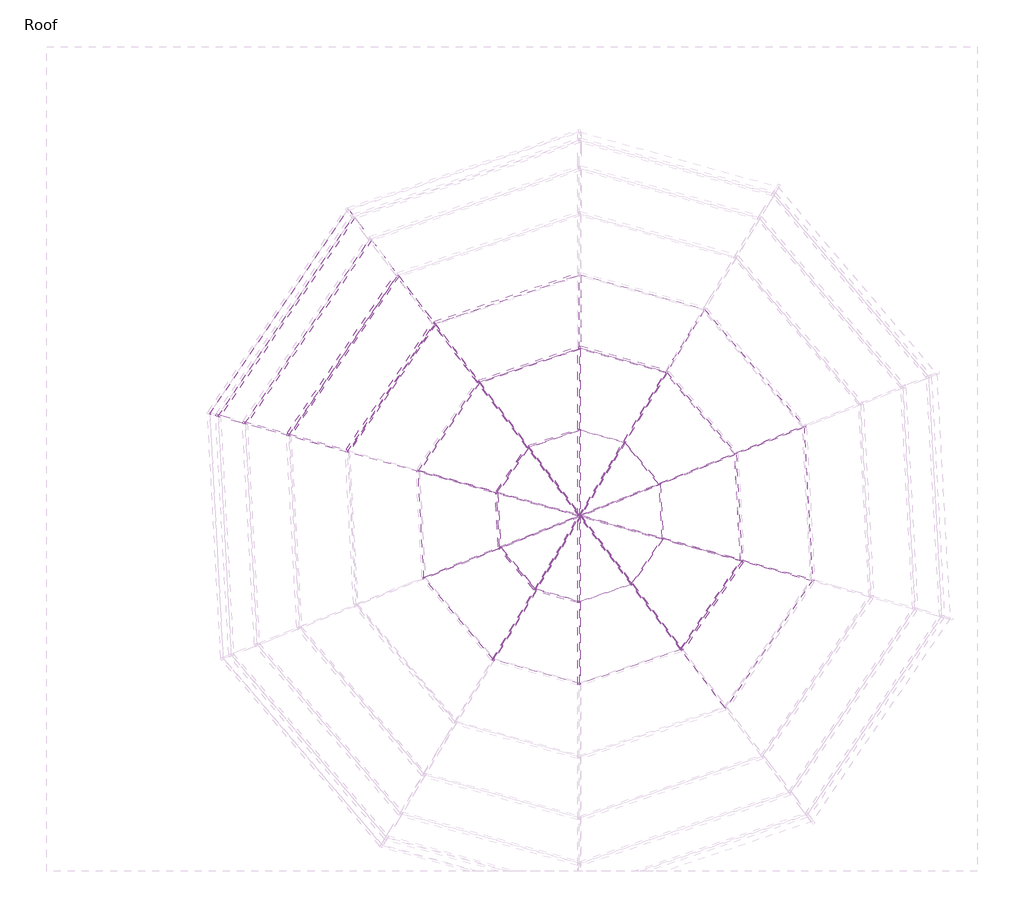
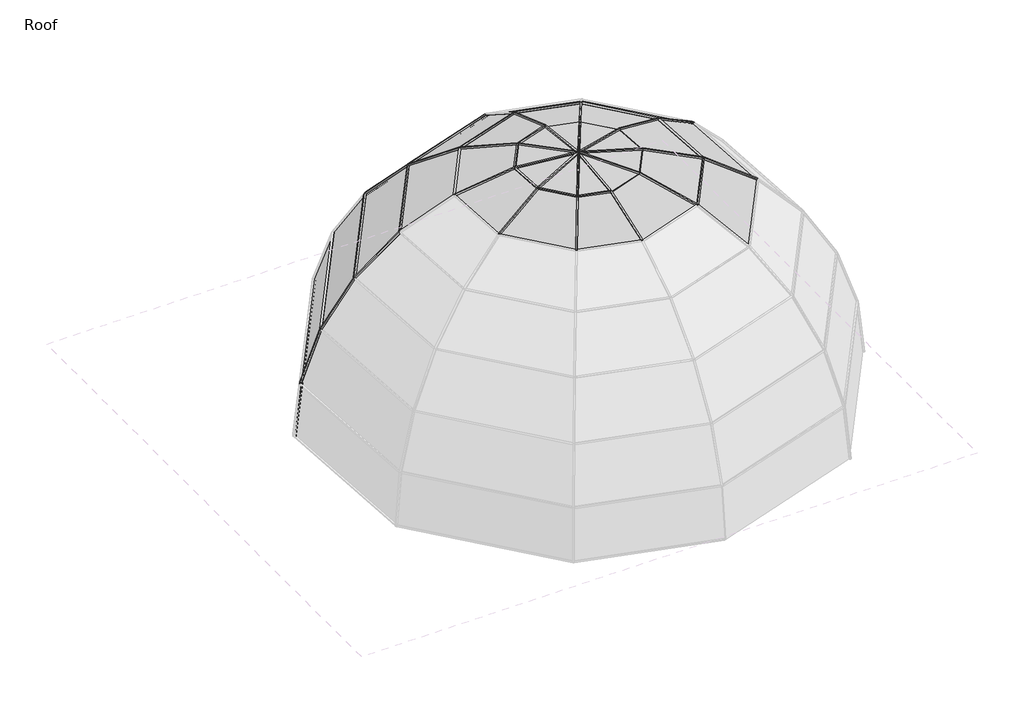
# One storey, part 2 of 3: 38 members, 30 plates.
"""IFC4 building model written with IfcOpenShell, lengths in millimetres."""

from ifc_helpers import new_model, si_unit, origin, place, context, project, spatial, transform, mapped, element, save
from components import member_3f701010, member_f9a14158, member_bc2e3a47, member_73dedc35, member_63cfc018, member_857f6deb, member_36e36e3b, member_26d44a89, member_b55583c4, member_f8dfbb61, member_9a94730e, member_5db58e8d, member_5e5b0f7a, member_c5f5a388, member_5673ea5a, member_a9a1d196, member_d894d30a, system_panel_glazed_1ea26782, system_panel_glazed_0465c066, system_panel_glazed_b605f71e, system_panel_glazed_6a8e4244, system_panel_glazed_dc2019c0, system_panel_glazed_ca898007, system_panel_glazed_39271ac9, system_panel_glazed_1f9012bf, system_panel_glazed_a35e3d46, system_panel_glazed_e93355c8, system_panel_glazed_0031539c, system_panel_glazed_23af2605, system_panel_glazed_4e7d729c, system_panel_glazed_ed1eaaca, system_panel_glazed_898b3a03, system_panel_glazed_c12102e3, system_panel_glazed_fc6d615b, system_panel_glazed_0e92e8da

model = new_model("IFC4")

# Units and contexts
model_context = context("Model", 3, world=origin())
ifc_project = project(units=[si_unit("LENGTHUNIT", "METRE", prefix="MILLI")], contexts=[model_context])

# Site, building, storey
site = spatial("IfcSite", under=ifc_project)
building = spatial("IfcBuilding", under=site)
storey = spatial("IfcBuildingStorey", under=building, Name="Roof", Elevation=15240.0)

# Members
placement = place(None, origin())
member_shape = member_3f701010(model_context)
element("IfcMember", 1, ObjectType="Rectangular Mullion : 1\" Square", at=placement, inside=storey, context=model_context, shape_type="MappedRepresentation", body=[
    mapped(member_shape, transform((-6819.2556928, -1466.4228438, 20297.5362419), x_axis=(-0.26737778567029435, -0.9635917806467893, 0.0), y_axis=(0.912776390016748, -0.25327751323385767, -0.3204524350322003), z_axis=(0.3087853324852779, -0.08568186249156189, 0.947264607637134))),
])
member_2_shape = member_f9a14158(model_context)
element("IfcMember", 2, ObjectType="Rectangular Mullion : 1\" Square", at=placement, inside=storey, context=model_context, shape_type="MappedRepresentation", body=[
    mapped(member_2_shape, transform((-4494.6509945, -248.1794723, 21964.9283585), x_axis=(-0.7960457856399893, -0.6052364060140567, 0.0), y_axis=(0.4307876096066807, -0.5665995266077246, -0.7024151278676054), z_axis=(0.4251272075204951, -0.5591546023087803, 0.7117675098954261))),
])
element("IfcMember", 3, ObjectType="Rectangular Mullion : 1\" Square", at=placement, inside=storey, context=model_context, shape_type="MappedRepresentation", body=[
    mapped(member_2_shape, transform((-3949.578556, -965.0937445, 22536.7606794), x_axis=(-0.7960457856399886, -0.6052364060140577, 0.0), y_axis=(0.32442232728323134, -0.42670107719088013, -0.8442016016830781), z_axis=(0.5109415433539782, -0.672023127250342, 0.5360257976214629))),
])
element("IfcMember", 4, ObjectType="Rectangular Mullion : 1\" Square", at=placement, inside=storey, context=model_context, shape_type="MappedRepresentation", body=[
    mapped(member_2_shape, transform((-6279.7685354, -1616.1199297, 21205.6147789), x_axis=(-0.2673777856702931, -0.9635917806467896, 0.0), y_axis=(0.8202259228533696, -0.22759657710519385, -0.5248135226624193), z_axis=(0.5057059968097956, -0.14032347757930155, 0.8512172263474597))),
])
element("IfcMember", 5, ObjectType="Rectangular Mullion : 1\" Square", at=placement, inside=storey, context=model_context, shape_type="MappedRepresentation", body=[
    mapped(member_2_shape, transform((-5557.7140831, -1816.4758527, 21964.9283585), x_axis=(-0.26737778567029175, -0.9635917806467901, 0.0), y_axis=(0.6858533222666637, -0.19031082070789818, -0.7024151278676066), z_axis=(0.6768414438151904, -0.18781020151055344, 0.7117675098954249))),
])
element("IfcMember", 6, ObjectType="Rectangular Mullion : 1\" Square", at=placement, inside=storey, context=model_context, shape_type="MappedRepresentation", body=[
    mapped(member_2_shape, transform((-708.5192281, -3162.0321439, 22536.7606794), x_axis=(0.2673777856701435, 0.9635917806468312, 0.0), y_axis=(-0.5165100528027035, 0.1433213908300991, -0.8442016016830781), z_axis=(-0.8134657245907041, 0.22572075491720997, 0.536025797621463))),
])
element("IfcMember", 7, ObjectType="Rectangular Mullion : 1\" Square", at=placement, inside=storey, context=model_context, shape_type="MappedRepresentation", body=[
    mapped(member_2_shape, transform((-780.210128, -1844.5312088, 22536.7606794), x_axis=(-0.37035586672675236, 0.9288899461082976, 0.0), y_axis=(-0.49790897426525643, -0.19852029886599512, -0.8442016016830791), z_axis=(-0.7841703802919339, -0.3126550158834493, 0.5360257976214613))),
])
member_3_shape = member_bc2e3a47(model_context)
element("IfcMember", 8, ObjectType="Rectangular Mullion : 1\" Square", at=placement, inside=storey, context=model_context, shape_type="MappedRepresentation", body=[
    mapped(member_3_shape, transform((-3340.7518393, -1765.8617373, 22891.9548387), x_axis=(-0.7960457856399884, -0.6052364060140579, 0.0), y_axis=(0.20151521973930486, -0.26504575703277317, -0.942943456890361), z_axis=(0.5707037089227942, -0.7506261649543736, 0.33295290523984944))),
])
element("IfcMember", 9, ObjectType="Rectangular Mullion : 1\" Square", at=placement, inside=storey, context=model_context, shape_type="MappedRepresentation", body=[
    mapped(member_3_shape, transform((-3245.4063873, -3518.0746733, 22891.9548387), x_axis=(0.8570182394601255, -0.5152860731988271, 0.0), y_axis=(0.17156599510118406, 0.2853467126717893, -0.9429434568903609), z_axis=(0.4858856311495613, 0.8081197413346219, 0.3329529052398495))),
])
element("IfcMember", 10, ObjectType="Rectangular Mullion : 1\" Square", at=placement, inside=storey, context=model_context, shape_type="MappedRepresentation", body=[
    mapped(member_3_shape, transform((-3683.8177528, -3002.2228418, 22891.9548387), x_axis=(0.3703558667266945, -0.9288899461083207, 0.0), y_axis=(0.309276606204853, 0.12331106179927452, -0.9429434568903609), z_axis=(0.8758906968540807, 0.3492246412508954, 0.33295290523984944))),
])
element("IfcMember", 11, ObjectType="Rectangular Mullion : 1\" Square", at=placement, inside=storey, context=model_context, shape_type="MappedRepresentation", body=[
    mapped(member_3_shape, transform((-3720.6009641, -2326.238646, 22891.9548387), x_axis=(-0.2673777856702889, -0.9635917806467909, 0.0), y_axis=(0.3208306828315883, -0.08902421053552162, -0.942943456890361), z_axis=(0.9086125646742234, -0.25212213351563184, 0.33295290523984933))),
])
member_4_shape = member_73dedc35(model_context)
element("IfcMember", 12, ObjectType="Rectangular Mullion : 1\" Square", at=placement, inside=storey, context=model_context, shape_type="MappedRepresentation", body=[
    mapped(member_4_shape, transform((-2699.2140381, -3669.6323181, 22891.9548387), x_axis=(0.9957593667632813, -0.030630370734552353, 0.08674712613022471), y_axis=(0.09199610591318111, 0.3315409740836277, -0.9389447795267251), z_axis=(0.0, 0.9429434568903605, 0.33295290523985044))),
])
member_5_shape = member_63cfc018(model_context)
element("IfcMember", 13, ObjectType="Rectangular Mullion : 1\" Square", at=placement, inside=storey, context=model_context, shape_type="MappedRepresentation", body=[
    mapped(member_5_shape, transform((-2699.2140381, -543.7424999, 22536.7606794), x_axis=(0.9937644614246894, 0.03712416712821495, 0.10513796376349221), y_axis=(0.11149975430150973, -0.33087676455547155, -0.9370636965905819), z_axis=(0.0, 0.9429434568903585, -0.33295290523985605))),
])
member_6_shape = member_857f6deb(model_context)
element("IfcMember", 14, ObjectType="Rectangular Mullion : 1\" Square", at=placement, inside=storey, context=model_context, shape_type="MappedRepresentation", body=[
    mapped(member_6_shape, transform((-2699.2140381, -1549.6745798, 22891.9548387), x_axis=(0.9992770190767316, 0.004302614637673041, 0.03777468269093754), y_axis=(0.038018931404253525, -0.11308850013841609, -0.9928572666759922), z_axis=(0.0, 0.9935756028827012, -0.11317032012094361))),
])
member_7_shape = member_36e36e3b(model_context)
element("IfcMember", 15, ObjectType="Rectangular Mullion : 1\" Square", at=placement, inside=storey, context=model_context, shape_type="MappedRepresentation", body=[
    mapped(member_7_shape, transform((-6272.6426915, -1605.6074443, 21205.6147789), x_axis=(-0.5281202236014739, 0.35798406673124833, -0.7700236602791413), y_axis=(0.637390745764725, -0.43205262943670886, -0.6380153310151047), z_axis=(-0.5610900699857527, -0.8277547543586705, 0.0))),
])
member_8_shape = member_26d44a89(model_context)
element("IfcMember", 16, ObjectType="Rectangular Mullion : 1\" Square", at=placement, inside=storey, context=model_context, shape_type="MappedRepresentation", body=[
    mapped(member_8_shape, transform((-5550.5882392, -1805.9633673, 21964.9283585), x_axis=(-0.6575841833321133, 0.44574066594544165, -0.6073699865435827), y_axis=(0.5027533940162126, -0.3407892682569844, -0.7944190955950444), z_axis=(-0.5610900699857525, -0.8277547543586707, 0.0))),
])
member_9_shape = member_b55583c4(model_context)
element("IfcMember", 17, ObjectType="Rectangular Mullion : 1\" Square", at=placement, inside=storey, context=model_context, shape_type="MappedRepresentation", body=[
    mapped(member_9_shape, transform((-4482.6159576, -244.1238728, 21964.9283585), x_axis=(-0.25368863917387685, 0.7528238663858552, -0.6073699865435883), y_axis=(0.19395664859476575, -0.5755685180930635, -0.7944190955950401), z_axis=(-0.9476406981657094, -0.31933854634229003, 0.0))),
])
member_10_shape = member_f8dfbb61(model_context)
element("IfcMember", 18, ObjectType="Rectangular Mullion : 1\" Square", at=placement, inside=storey, context=model_context, shape_type="MappedRepresentation", body=[
    mapped(member_10_shape, transform((-715.645072, -3172.5446293, 22536.7606794), x_axis=(0.7517846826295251, -0.5095940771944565, -0.4184897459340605), y_axis=(-0.34640687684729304, 0.23481044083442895, -0.9082215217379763), z_axis=(0.561090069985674, 0.8277547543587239, 0.0))),
])
member_11_shape = member_9a94730e(model_context)
element("IfcMember", 19, ObjectType="Rectangular Mullion : 1\" Square", at=placement, inside=storey, context=model_context, shape_type="MappedRepresentation", body=[
    mapped(member_11_shape, transform((-2699.2140381, -2612.1934489, 23012.3993172), x_axis=(0.9995096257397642, -0.003543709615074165, 0.03111189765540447), y_axis=(0.031313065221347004, 0.11311482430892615, -0.9930883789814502), z_axis=(0.0, 0.9935756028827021, 0.11317032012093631))),
])
member_12_shape = member_5db58e8d(model_context)
element("IfcMember", 20, ObjectType="Rectangular Mullion : 1\" Square", at=placement, inside=storey, context=model_context, shape_type="MappedRepresentation", body=[
    mapped(member_12_shape, transform((-2701.6615612, -2608.9743094, 23012.3993172), x_axis=(-0.26737778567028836, -0.963591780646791, 0.0), y_axis=(0.10904999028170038, -0.030259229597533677, -0.9935756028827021), z_axis=(0.9574012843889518, -0.26566004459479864, 0.11317032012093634))),
])
element("IfcMember", 21, ObjectType="Rectangular Mullion : 1\" Square", at=placement, inside=storey, context=model_context, shape_type="MappedRepresentation", body=[
    mapped(member_12_shape, transform((-2701.5734186, -2610.5941528, 23012.3993172), x_axis=(0.37035586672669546, -0.9288899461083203, 0.0), y_axis=(0.10512277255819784, 0.04191329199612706, -0.9935756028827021), z_axis=(0.9229223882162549, 0.367976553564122, 0.1131703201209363))),
])
element("IfcMember", 22, ObjectType="Rectangular Mullion : 1\" Square", at=placement, inside=storey, context=model_context, shape_type="MappedRepresentation", body=[
    mapped(member_12_shape, transform((-2700.5228647, -2611.8302753, 23012.3993172), x_axis=(0.8570182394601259, -0.5152860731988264, 0.0), y_axis=(0.05831508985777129, 0.09698902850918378, -0.9935756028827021), z_axis=(0.5119756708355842, 0.8515124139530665, 0.11317032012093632))),
])
element("IfcMember", 23, ObjectType="Rectangular Mullion : 1\" Square", at=placement, inside=storey, context=model_context, shape_type="MappedRepresentation", body=[
    mapped(member_12_shape, transform((-2700.7513386, -2607.6314926, 23012.3993172), x_axis=(-0.7960457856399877, -0.6052364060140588, 0.0), y_axis=(0.06849479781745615, -0.09008875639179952, -0.9935756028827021), z_axis=(0.6013481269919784, -0.7909316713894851, 0.1131703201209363))),
])
member_13_shape = member_5e5b0f7a(model_context)
element("IfcMember", 24, ObjectType="Rectangular Mullion : 1\" Square", at=placement, inside=storey, context=model_context, shape_type="MappedRepresentation", body=[
    mapped(member_13_shape, transform((-3328.7168025, -1761.8061377, 22891.9548387), x_axis=(-0.3119990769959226, 0.9258607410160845, -0.21316299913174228), y_axis=(0.06807116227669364, -0.2020019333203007, -0.9770166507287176), z_axis=(-0.9476406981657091, -0.31933854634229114, 0.0))),
])
member_14_shape = member_c5f5a388(model_context)
element("IfcMember", 25, ObjectType="Rectangular Mullion : 1\" Square", at=placement, inside=storey, context=model_context, shape_type="MappedRepresentation", body=[
    mapped(member_14_shape, transform((-2723.6892693, -3662.8409224, 22891.9548387), x_axis=(-0.26103129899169, -0.9407199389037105, -0.21658406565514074), y_axis=(0.05790976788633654, 0.2086986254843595, -0.9762639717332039), z_axis=(0.9635917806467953, -0.2673777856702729, 0.0))),
])
member_15_shape = member_5673ea5a(model_context)
element("IfcMember", 26, ObjectType="Rectangular Mullion : 1\" Square", at=placement, inside=storey, context=model_context, shape_type="MappedRepresentation", body=[
    mapped(member_15_shape, transform((-3937.5435192, -961.0381449, 22536.7606794), x_axis=(-0.29003014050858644, 0.8606676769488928, -0.4184897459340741), y_axis=(0.13363990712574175, -0.3965779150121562, -0.9082215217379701), z_axis=(-0.9476406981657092, -0.3193385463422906, 0.0))),
])
member_16_shape = member_a9a1d196(model_context)
element("IfcMember", 27, ObjectType="Rectangular Mullion : 1\" Square", at=placement, inside=storey, context=model_context, shape_type="MappedRepresentation", body=[
    mapped(member_16_shape, transform((-3253.6308394, -3508.3974636, 22891.9548387), x_axis=(-0.7444720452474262, -0.6327107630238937, -0.21316299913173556), y_axis=(0.16242701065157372, 0.13804321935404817, -0.977016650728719), z_axis=(0.647594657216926, -0.7619850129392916, 0.0))),
])
element("IfcMember", 28, ObjectType="Rectangular Mullion : 1\" Square", at=placement, inside=storey, context=model_context, shape_type="MappedRepresentation", body=[
    mapped(member_16_shape, transform((-3713.4751202, -2315.7261607, 22891.9548387), x_axis=(-0.8087301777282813, 0.548194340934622, -0.2131629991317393), y_axis=(0.1764466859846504, -0.11960364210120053, -0.9770166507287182), z_axis=(-0.5610900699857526, -0.8277547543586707, 0.0))),
])
element("IfcMember", 29, ObjectType="Rectangular Mullion : 1\" Square", at=placement, inside=storey, context=model_context, shape_type="MappedRepresentation", body=[
    mapped(member_16_shape, transform((-3684.5077937, -2989.5416019, 22891.9548387), x_axis=(-0.9755734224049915, -0.05308515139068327, -0.2131629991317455), y_axis=(0.21284811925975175, 0.011581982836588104, -0.9770166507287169), z_axis=(0.05433392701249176, -0.9985228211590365, 0.0))),
])
element("IfcMember", 30, ObjectType="Rectangular Mullion : 1\" Square", at=placement, inside=storey, context=model_context, shape_type="MappedRepresentation", body=[
    mapped(member_12_shape, transform((-2697.6767376, -2611.6754052, 23012.3993172), x_axis=(0.7960457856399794, 0.6052364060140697, 0.0), y_axis=(-0.06849479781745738, 0.09008875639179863, -0.9935756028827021), z_axis=(-0.6013481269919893, 0.7909316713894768, 0.11317032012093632))),
])
element("IfcMember", 31, ObjectType="Rectangular Mullion : 1\" Square", at=placement, inside=storey, context=model_context, shape_type="MappedRepresentation", body=[
    mapped(member_12_shape, transform((-2696.766515, -2610.3325885, 23012.3993172), x_axis=(0.26737778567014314, 0.9635917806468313, 0.0), y_axis=(-0.10904999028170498, 0.030259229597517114, -0.9935756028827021), z_axis=(-0.9574012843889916, 0.2656600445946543, 0.1131703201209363))),
])
element("IfcMember", 32, ObjectType="Rectangular Mullion : 1\" Square", at=placement, inside=storey, context=model_context, shape_type="MappedRepresentation", body=[
    mapped(member_12_shape, transform((-2696.8546576, -2608.712745, 23012.3993172), x_axis=(-0.37035586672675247, 0.9288899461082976, 0.0), y_axis=(-0.10512277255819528, -0.04191329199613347, -0.9935756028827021), z_axis=(-0.9229223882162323, -0.3679765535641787, 0.1131703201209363))),
])
element("IfcMember", 33, ObjectType="Rectangular Mullion : 1\" Square", at=placement, inside=storey, context=model_context, shape_type="MappedRepresentation", body=[
    mapped(member_12_shape, transform((-2697.9052115, -2607.4766226, 23012.3993172), x_axis=(-0.8570182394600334, 0.5152860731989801, 0.0), y_axis=(-0.05831508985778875, -0.09698902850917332, -0.9935756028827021), z_axis=(-0.5119756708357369, -0.8515124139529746, 0.11317032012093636))),
])
element("IfcMember", 34, ObjectType="Rectangular Mullion : 1\" Square", at=placement, inside=storey, context=model_context, shape_type="MappedRepresentation", body=[
    mapped(member_3_shape, transform((-2057.6762369, -3453.4451606, 22891.9548387), x_axis=(0.7960457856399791, 0.6052364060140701, 0.0), y_axis=(-0.20151521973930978, 0.2650457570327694, -0.942943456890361), z_axis=(-0.5707037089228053, 0.7506261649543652, 0.3329529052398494))),
])
element("IfcMember", 35, ObjectType="Rectangular Mullion : 1\" Square", at=placement, inside=storey, context=model_context, shape_type="MappedRepresentation", body=[
    mapped(member_3_shape, transform((-1677.8271121, -2893.0682518, 22891.9548387), x_axis=(0.2673777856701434, 0.9635917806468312, 0.0), y_axis=(-0.32083068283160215, 0.08902421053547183, -0.9429434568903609), z_axis=(-0.9086125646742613, 0.2521221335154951, 0.3329529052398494))),
])
element("IfcMember", 36, ObjectType="Rectangular Mullion : 1\" Square", at=placement, inside=storey, context=model_context, shape_type="MappedRepresentation", body=[
    mapped(member_3_shape, transform((-1714.6103234, -2217.0840561, 22891.9548387), x_axis=(-0.37035586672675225, 0.9288899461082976, 0.0), y_axis=(-0.30927660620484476, -0.12331106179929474, -0.942943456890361), z_axis=(-0.8758906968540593, -0.3492246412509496, 0.33295290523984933))),
])
element("IfcMember", 37, ObjectType="Rectangular Mullion : 1\" Square", at=placement, inside=storey, context=model_context, shape_type="MappedRepresentation", body=[
    mapped(member_3_shape, transform((-2153.0216889, -1701.2322246, 22891.9548387), x_axis=(-0.8570182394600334, 0.5152860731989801, 0.0), y_axis=(-0.17156599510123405, -0.2853467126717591, -0.942943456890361), z_axis=(-0.48588563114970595, -0.808119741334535, 0.33295290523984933))),
])
member_17_shape = member_d894d30a(model_context)
element("IfcMember", 38, ObjectType="Rectangular Mullion : 1\" Square", at=placement, inside=storey, context=model_context, shape_type="MappedRepresentation", body=[
    mapped(member_17_shape, transform((-2699.2140381, -543.7424999, 22536.7606794), x_axis=(0.24211956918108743, 0.8725647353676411, -0.4242745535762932), y_axis=(-0.11344159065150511, -0.4088274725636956, -0.9055336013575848), z_axis=(-0.9635917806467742, 0.2673777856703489, 0.0))),
])

# Plates
system_panel_glazed_shape = system_panel_glazed_1ea26782(model_context)
element("IfcPlate", 39, ObjectType="System Panel : Glazed", at=placement, inside=storey, context=model_context, shape_type="MappedRepresentation", body=[
    mapped(system_panel_glazed_shape, transform((-2378.4505721, -2610.2718472, 23000.0472905), x_axis=(0.9992770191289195, 0.004292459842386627, -0.03777583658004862), y_axis=(0.03801893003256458, -0.11282159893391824, 0.9928876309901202), z_axis=(0.0, -0.9936059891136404, -0.1129032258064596))),
])
system_panel_glazed_2_shape = system_panel_glazed_0465c066(model_context)
element("IfcPlate", 40, ObjectType="System Panel : Glazed", at=placement, inside=storey, context=model_context, shape_type="MappedRepresentation", body=[
    mapped(system_panel_glazed_2_shape, transform((-3019.9775041, -1551.0524402, 22879.8289637), x_axis=(0.9992770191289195, 0.004292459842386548, 0.03777583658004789), y_axis=(-0.038018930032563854, 0.11282159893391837, 0.9928876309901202), z_axis=(0.0, -0.9936059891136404, 0.11290322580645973))),
])
system_panel_glazed_3_shape = system_panel_glazed_b605f71e(model_context)
element("IfcPlate", 41, ObjectType="System Panel : Glazed", at=placement, inside=storey, context=model_context, shape_type="MappedRepresentation", body=[
    mapped(system_panel_glazed_3_shape, transform((-2187.7660118, -2606.9296339, 22961.819747), x_axis=(0.9951322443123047, 0.006615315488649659, -0.09832626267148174), y_axis=(0.09854854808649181, -0.06680071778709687, 0.9928876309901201), z_axis=(0.0, -0.9977444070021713, -0.06712747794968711))),
])
system_panel_glazed_4_shape = system_panel_glazed_6a8e4244(model_context)
element("IfcPlate", 42, ObjectType="System Panel : Glazed", at=placement, inside=storey, context=model_context, shape_type="MappedRepresentation", body=[
    mapped(system_panel_glazed_4_shape, transform((-2187.357878, -2216.7153021, 22948.5549517), x_axis=(0.9929087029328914, -0.0007744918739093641, -0.11887685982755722), y_axis=(0.11887938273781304, 0.00646873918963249, 0.9928876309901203), z_axis=(0.0, -0.999978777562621, 0.006514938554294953))),
])
system_panel_glazed_5_shape = system_panel_glazed_dc2019c0(model_context)
element("IfcPlate", 43, ObjectType="System Panel : Glazed", at=placement, inside=storey, context=model_context, shape_type="MappedRepresentation", body=[
    mapped(system_panel_glazed_5_shape, transform((-2206.2707351, -1700.8566921, 22896.7909453), x_axis=(0.9958765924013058, -0.007023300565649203, -0.09044603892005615), y_axis=(0.0907183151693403, 0.07709954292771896, 0.9928876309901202), z_axis=(0.0, -0.9969986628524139, 0.07741877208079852))),
])
system_panel_glazed_6_shape = system_panel_glazed_ca898007(model_context)
element("IfcPlate", 44, ObjectType="System Panel : Glazed", at=placement, inside=storey, context=model_context, shape_type="MappedRepresentation", body=[
    mapped(system_panel_glazed_6_shape, transform((-2426.1223406, -1550.6405271, 22883.4540096), x_axis=(0.999509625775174, -0.00353534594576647, -0.031112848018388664), y_axis=(0.031313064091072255, 0.11284786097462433, 0.9931187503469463), z_axis=(0.0, -0.9936059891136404, 0.11290322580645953))),
])
system_panel_glazed_7_shape = system_panel_glazed_39271ac9(model_context)
element("IfcPlate", 45, ObjectType="System Panel : Glazed", at=placement, inside=storey, context=model_context, shape_type="MappedRepresentation", body=[
    mapped(system_panel_glazed_7_shape, transform((-2378.4451375, -3561.5387394, 22891.9548387), x_axis=(0.9476406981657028, 0.3193385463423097, 0.0), y_axis=(0.11149975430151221, -0.33087676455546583, 0.9370636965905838), z_axis=(0.299240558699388, -0.8879996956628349, -0.3491584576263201))),
])
element("IfcPlate", 46, ObjectType="System Panel : Glazed", at=placement, inside=storey, context=model_context, shape_type="MappedRepresentation", body=[
    mapped(system_panel_glazed_7_shape, transform((-1867.7516745, -3173.2567062, 22891.9548387), x_axis=(0.5610900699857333, 0.8277547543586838, 0.0), y_axis=(0.28901757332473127, -0.19590934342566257, 0.9370636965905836), z_axis=(0.7756589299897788, -0.5257771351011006, -0.3491584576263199))),
])
element("IfcPlate", 47, ObjectType="System Panel : Glazed", at=placement, inside=storey, context=model_context, shape_type="MappedRepresentation", body=[
    mapped(system_panel_glazed_7_shape, transform((-1696.2187178, -2555.076154, 22891.9548387), x_axis=(-0.0543339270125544, 0.9985228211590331, 0.0), y_axis=(0.34864268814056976, 0.018971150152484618, 0.9370636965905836), z_axis=(0.9356794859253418, 0.05091435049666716, -0.34915845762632))),
])
element("IfcPlate", 48, ObjectType="System Panel : Glazed", at=placement, inside=storey, context=model_context, shape_type="MappedRepresentation", body=[
    mapped(system_panel_glazed_7_shape, transform((-1933.8160062, -1959.1581404, 22891.9548387), x_axis=(-0.6475946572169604, 0.7619850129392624, 0.0), y_axis=(0.2660535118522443, 0.22611315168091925, 0.9370636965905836), z_axis=(0.7140284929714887, 0.6068374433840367, -0.34915845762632))),
])
element("IfcPlate", 49, ObjectType="System Panel : Glazed", at=placement, inside=storey, context=model_context, shape_type="MappedRepresentation", body=[
    mapped(system_panel_glazed_7_shape, transform((-3019.9829387, -1657.7681585, 22891.9548387), x_axis=(-0.9476406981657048, -0.31933854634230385, 0.0), y_axis=(-0.11149975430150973, 0.3308767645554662, 0.9370636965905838), z_axis=(-0.2992405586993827, 0.887999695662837, -0.34915845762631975))),
])
element("IfcPlate", 50, ObjectType="System Panel : Glazed", at=placement, inside=storey, context=model_context, shape_type="MappedRepresentation", body=[
    mapped(system_panel_glazed_7_shape, transform((-3530.6764017, -2046.0501917, 22891.9548387), x_axis=(-0.5610900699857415, -0.8277547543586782, 0.0), y_axis=(-0.2890175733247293, 0.19590934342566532, 0.9370636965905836), z_axis=(-0.7756589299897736, 0.5257771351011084, -0.34915845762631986))),
])
element("IfcPlate", 51, ObjectType="System Panel : Glazed", at=placement, inside=storey, context=model_context, shape_type="MappedRepresentation", body=[
    mapped(system_panel_glazed_7_shape, transform((-3702.2093584, -2664.2307439, 22891.9548387), x_axis=(0.054333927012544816, -0.9985228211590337, 0.0), y_axis=(-0.34864268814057, -0.0189711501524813, 0.9370636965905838), z_axis=(-0.9356794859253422, -0.05091435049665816, -0.34915845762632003))),
])
element("IfcPlate", 52, ObjectType="System Panel : Glazed", at=placement, inside=storey, context=model_context, shape_type="MappedRepresentation", body=[
    mapped(system_panel_glazed_7_shape, transform((-3464.61207, -3260.1487575, 22891.9548387), x_axis=(0.6475946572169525, -0.7619850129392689, 0.0), y_axis=(-0.2660535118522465, -0.2261131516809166, 0.9370636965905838), z_axis=(-0.7140284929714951, -0.6068374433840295, -0.34915845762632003))),
])
system_panel_glazed_8_shape = system_panel_glazed_1f9012bf(model_context)
element("IfcPlate", 53, ObjectType="System Panel : Glazed", at=placement, inside=storey, context=model_context, shape_type="MappedRepresentation", body=[
    mapped(system_panel_glazed_8_shape, transform((-2426.1178635, -1625.4534022, 22891.9548387), x_axis=(-0.9635917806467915, 0.26737778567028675, 0.0), y_axis=(0.09199610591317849, 0.3315409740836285, 0.9389447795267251), z_axis=(0.25105297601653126, 0.9047594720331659, -0.3440678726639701))),
])
element("IfcPlate", 54, ObjectType="System Panel : Glazed", at=placement, inside=storey, context=model_context, shape_type="MappedRepresentation", body=[
    mapped(system_panel_glazed_8_shape, transform((-2972.3102127, -3593.8534957, 22891.9548387), x_axis=(0.9635917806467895, -0.26737778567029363, 0.0), y_axis=(-0.09199610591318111, -0.3315409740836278, 0.938944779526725), z_axis=(-0.2510529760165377, -0.9047594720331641, -0.34406787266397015))),
])
system_panel_glazed_9_shape = system_panel_glazed_a35e3d46(model_context)
element("IfcPlate", 55, ObjectType="System Panel : Glazed", at=placement, inside=storey, context=model_context, shape_type="MappedRepresentation", body=[
    mapped(system_panel_glazed_9_shape, transform((-1078.6843741, -3708.1226486, 22536.7606794), x_axis=(0.5610900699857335, 0.8277547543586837, 0.0), y_axis=(0.4607568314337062, -0.31232207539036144, 0.8307575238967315), z_axis=(0.6876634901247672, -0.4661297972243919, -0.5566344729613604))),
])
element("IfcPlate", 56, ObjectType="System Panel : Glazed", at=placement, inside=storey, context=model_context, shape_type="MappedRepresentation", body=[
    mapped(system_panel_glazed_9_shape, transform((-744.3646781, -2503.2816764, 22536.7606794), x_axis=(-0.05433392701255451, 0.9985228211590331, 0.0), y_axis=(0.555812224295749, 0.030244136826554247, 0.8307575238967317), z_axis=(0.8295303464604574, 0.045138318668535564, -0.5566344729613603))),
])
element("IfcPlate", 57, ObjectType="System Panel : Glazed", at=placement, inside=storey, context=model_context, shape_type="MappedRepresentation", body=[
    mapped(system_panel_glazed_9_shape, transform((-1207.4445128, -1341.8306467, 22536.7606794), x_axis=(-0.6475946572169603, 0.7619850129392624, 0.0), y_axis=(0.42414712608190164, 0.36047351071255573, 0.8307575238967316), z_axis=(0.6330247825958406, 0.5379941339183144, -0.5566344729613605))),
])
element("IfcPlate", 58, ObjectType="System Panel : Glazed", at=placement, inside=storey, context=model_context, shape_type="MappedRepresentation", body=[
    mapped(system_panel_glazed_9_shape, transform((-3324.3962971, -754.4181222, 22536.7606794), x_axis=(-0.9476406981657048, -0.31933854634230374, 0.0), y_axis=(-0.17775484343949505, 0.5274894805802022, 0.8307575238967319), z_axis=(-0.265292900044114, 0.7872596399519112, -0.5566344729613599))),
])
element("IfcPlate", 59, ObjectType="System Panel : Glazed", at=placement, inside=storey, context=model_context, shape_type="MappedRepresentation", body=[
    mapped(system_panel_glazed_9_shape, transform((-4319.7437021, -1511.1842492, 22536.7606794), x_axis=(-0.5610900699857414, -0.8277547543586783, 0.0), y_axis=(-0.4607568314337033, 0.31232207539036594, 0.8307575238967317), z_axis=(-0.6876634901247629, 0.46612979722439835, -0.5566344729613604))),
])
system_panel_glazed_10_shape = system_panel_glazed_e93355c8(model_context)
element("IfcPlate", 60, ObjectType="System Panel : Glazed", at=placement, inside=storey, context=model_context, shape_type="MappedRepresentation", body=[
    mapped(system_panel_glazed_10_shape, transform((-2166.9464679, -691.4362923, 22536.7606794), x_axis=(-0.9635917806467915, 0.2673777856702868, 0.0), y_axis=(0.14711821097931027, 0.5301932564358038, 0.8350157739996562), z_axis=(0.22326466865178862, 0.8046143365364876, -0.5502260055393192))),
])
system_panel_glazed_11_shape = system_panel_glazed_0031539c(model_context)
element("IfcPlate", 61, ObjectType="System Panel : Glazed", at=placement, inside=storey, context=model_context, shape_type="MappedRepresentation", body=[
    mapped(system_panel_glazed_11_shape, transform((-5026.1825388, -1032.3276625, 21964.9283585), x_axis=(-0.5610900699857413, -0.8277547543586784, 0.0), y_axis=(-0.6045745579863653, 0.4098083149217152, 0.6830422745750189), z_axis=(-0.5653914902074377, 0.38324823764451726, -0.7303788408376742))),
])
system_panel_glazed_12_shape = system_panel_glazed_23af2605(model_context)
element("IfcPlate", 62, ObjectType="System Panel : Glazed", at=placement, inside=storey, context=model_context, shape_type="MappedRepresentation", body=[
    mapped(system_panel_glazed_12_shape, transform((-5613.9726174, -633.8966361, 21205.6147789), x_axis=(-0.5610900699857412, -0.8277547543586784, 0.0), y_axis=(-0.7147077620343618, 0.4844616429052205, 0.504469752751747), z_axis=(-0.41757723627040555, 0.28305296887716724, -0.8634293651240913))),
])
system_panel_glazed_13_shape = system_panel_glazed_4e7d729c(model_context)
element("IfcPlate", 63, ObjectType="System Panel : Glazed", at=placement, inside=storey, context=model_context, shape_type="MappedRepresentation", body=[
    mapped(system_panel_glazed_13_shape, transform((-6053.143372, -336.2065919, 20297.5362419), x_axis=(-0.5610900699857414, -0.8277547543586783, 0.0), y_axis=(-0.7882408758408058, 0.5343057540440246, 0.30527640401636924), z_axis=(-0.2526939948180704, 0.1712875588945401, -0.9522637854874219))),
])
system_panel_glazed_14_shape = system_panel_glazed_ed1eaaca(model_context)
element("IfcPlate", 64, ObjectType="System Panel : Glazed", at=placement, inside=storey, context=model_context, shape_type="MappedRepresentation", body=[
    mapped(system_panel_glazed_14_shape, transform((-6321.302121, -154.4363146, 19286.9943584), x_axis=(-0.5610900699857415, -0.8277547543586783, 0.0), y_axis=(-0.8235370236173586, 0.5582310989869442, 0.10082068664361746), z_axis=(-0.08345480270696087, 0.056569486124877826, -0.9949046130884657))),
])
system_panel_glazed_15_shape = system_panel_glazed_898b3a03(model_context)
element("IfcPlate", 65, ObjectType="System Panel : Glazed", at=placement, inside=storey, context=model_context, shape_type="MappedRepresentation", body=[
    mapped(system_panel_glazed_15_shape, transform((-3210.6620644, -1764.9969427, 22904.8086493), x_axis=(0.9951322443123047, 0.0066153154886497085, 0.09832626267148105), y_axis=(-0.09854854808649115, 0.06680071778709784, 0.9928876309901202), z_axis=(0.0, -0.9977444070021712, 0.06712747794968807))),
])
system_panel_glazed_16_shape = system_panel_glazed_c12102e3(model_context)
element("IfcPlate", 66, ObjectType="System Panel : Glazed", at=placement, inside=storey, context=model_context, shape_type="MappedRepresentation", body=[
    mapped(system_panel_glazed_16_shape, transform((-3211.0701982, -2326.6360919, 22952.9588537), x_axis=(0.9929087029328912, -0.0007744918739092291, 0.11887685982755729), y_axis=(-0.11887938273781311, -0.006468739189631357, 0.9928876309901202), z_axis=(0.0, -0.999978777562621, -0.0065149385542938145))),
])
system_panel_glazed_17_shape = system_panel_glazed_fc6d615b(model_context)
element("IfcPlate", 67, ObjectType="System Panel : Glazed", at=placement, inside=storey, context=model_context, shape_type="MappedRepresentation", body=[
    mapped(system_panel_glazed_17_shape, transform((-3192.1573411, -2607.1121436, 22967.5580148), x_axis=(0.9958765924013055, -0.007023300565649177, 0.09044603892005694), y_axis=(-0.09071831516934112, -0.077099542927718, 0.9928876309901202), z_axis=(0.0, -0.996998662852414, -0.07741877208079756))),
])
system_panel_glazed_18_shape = system_panel_glazed_0e92e8da(model_context)
element("IfcPlate", 68, ObjectType="System Panel : Glazed", at=placement, inside=storey, context=model_context, shape_type="MappedRepresentation", body=[
    mapped(system_panel_glazed_18_shape, transform((-2972.3057356, -2610.8366563, 23003.654963), x_axis=(0.999509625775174, -0.00353534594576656, 0.031112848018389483), y_axis=(-0.03131306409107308, -0.11284786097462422, 0.9931187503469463), z_axis=(0.0, -0.9936059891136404, -0.11290322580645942))),
])

save(model, "model.ifc")
